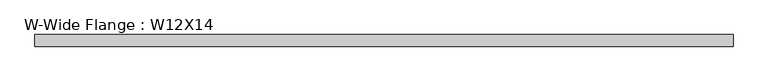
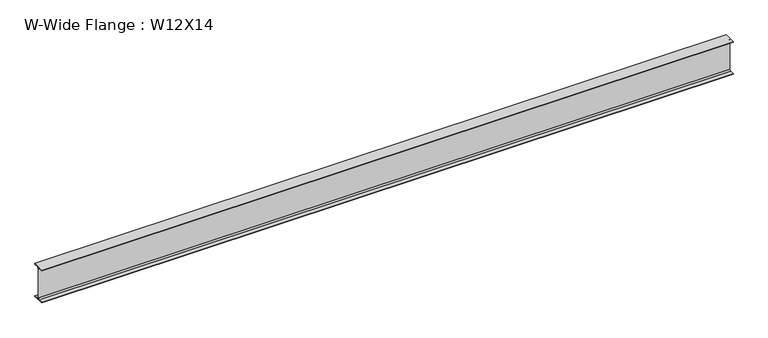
"""IFC4 building model written with IfcOpenShell, lengths in millimetres: beam geometry, W-Wide Flange : W12X14."""

from ifc_helpers import new_model, si_unit, point, frame, frame_2d, origin, place, context, project, spatial, polyline, circle_curve, trimmed, segment, composite_curve, outline, extrude, source, transform, mapped, element, save


def w_wide_flange_w12x14_b6641778(model_context):
    return source(origin(), model_context, "Body", "SweptSolid", [
        extrude(outline(composite_curve([segment(polyline([(50.419, -145.415), (50.419, -151.13), (-50.419, -151.13), (-50.419, -145.415), (-15.875, -145.415)]), True, "CONTINUOUS"), segment(trimmed(circle_curve(frame_2d((-15.875, -132.08)), 13.335), [point((-15.875, -145.415))], [point((-2.54, -132.08))], True, "CARTESIAN"), True, "CONTINUOUS"), segment(polyline([(-2.54, -132.08), (-2.54, 132.08)]), True, "CONTINUOUS"), segment(trimmed(circle_curve(frame_2d((-15.875, 132.08)), 13.335), [point((-2.54, 132.08))], [point((-15.875, 145.415))], True, "CARTESIAN"), True, "CONTINUOUS"), segment(polyline([(-15.875, 145.415), (-50.419, 145.415), (-50.419, 151.13), (50.419, 151.13), (50.419, 145.415), (15.875, 145.415)]), True, "CONTINUOUS"), segment(trimmed(circle_curve(frame_2d((15.875, 132.08)), 13.335), [point((15.875, 145.415))], [point((2.54, 132.08))], True, "CARTESIAN"), True, "CONTINUOUS"), segment(polyline([(2.54, 132.08), (2.54, -132.08)]), True, "CONTINUOUS"), segment(trimmed(circle_curve(frame_2d((15.875, -132.08)), 13.335), [point((2.54, -132.08))], [point((15.875, -145.415))], True, "CARTESIAN"), True, "CONTINUOUS"), segment(polyline([(15.875, -145.415), (50.419, -145.415)]), True, "CONTINUOUS")], self_intersect=False)), frame((-3039.26875, 0.0, 0.0), z_axis=(1.0, 0.0, 0.0), x_axis=(0.0, 1.0, 0.0)), (0.0, 0.0, 1.0), 6037.2625),
    ])


if __name__ == "__main__":
    model = new_model("IFC4")
    model_context = context("Model", 3, world=origin())
    ifc_project = project(units=[si_unit("LENGTHUNIT", "METRE", prefix="MILLI")], contexts=[model_context])
    site = spatial("IfcSite", under=ifc_project)
    building = spatial("IfcBuilding", under=site)
    placement = place(None, origin())
    w_wide_flange_w12x14_shape = w_wide_flange_w12x14_b6641778(model_context)
    element("IfcBeam", 1, ObjectType="W-Wide Flange : W12X14", at=placement, inside=building, context=model_context, shape_type="MappedRepresentation", body=[
        mapped(w_wide_flange_w12x14_shape, transform((0.0, 0.0, 0.0), x_axis=(1.0, 0.0, 0.0), y_axis=(0.0, 1.0, 0.0), z_axis=(0.0, 0.0, 1.0))),
    ])
    save(model, "model.ifc")
